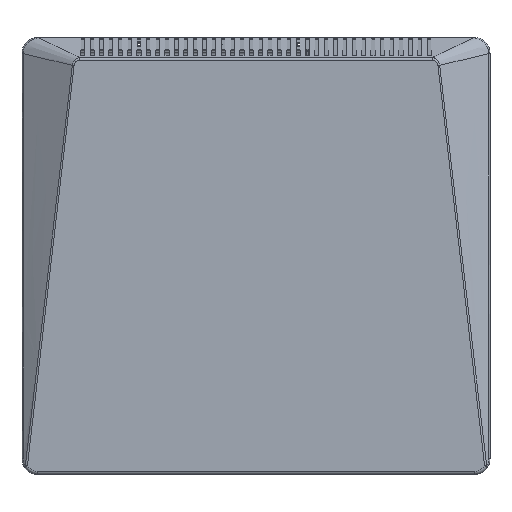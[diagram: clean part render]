
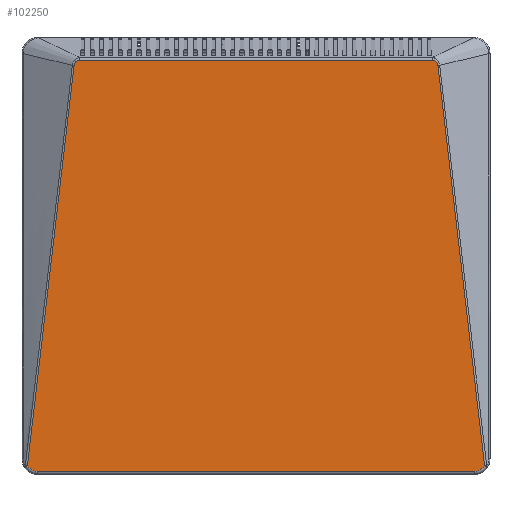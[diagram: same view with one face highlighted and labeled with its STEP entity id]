
A CAD part, top view. The second image highlights one B-rep face of the part: STEP entity #102250.
In plain terms, the highlighted planar face has unit normal (0, 0, 1).
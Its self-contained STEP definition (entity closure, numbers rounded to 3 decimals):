
#102250 = ADVANCED_FACE('',(#102251),#102399,.T.);
#102251 = FACE_BOUND('',#102252,.F.);
#102252 = EDGE_LOOP('',(#102253,#102290,#102312,#102320,#102342,#102375,
    #102384,#102392));
#102253 = ORIENTED_EDGE('',*,*,#102254,.F.);
#102254 = EDGE_CURVE('',#102255,#102257,#102259,.T.);
#102255 = VERTEX_POINT('',#102256);
#102256 = CARTESIAN_POINT('',(-174.95,182.919,52.));
#102257 = VERTEX_POINT('',#102258);
#102258 = CARTESIAN_POINT('',(-219.778,-201.956,52.));
#102259 = B_SPLINE_CURVE_WITH_KNOTS('',3,(#102260,#102261,#102262,
    #102263,#102264,#102265,#102266,#102267,#102268,#102269,#102270,
    #102271,#102272,#102273,#102274,#102275,#102276,#102277,#102278,
    #102279,#102280,#102281,#102282,#102283,#102284,#102285,#102286,
    #102287,#102288,#102289),.UNSPECIFIED.,.F.,.F.,(4,1,1,1,1,1,1,1,1,1,
    1,1,1,1,1,1,1,1,1,1,1,1,1,1,1,1,1,4),(0.,0.037,
    0.074,0.111,0.148,0.185,
    0.222,0.259,0.296,0.333,
    0.37,0.407,0.444,0.481,
    0.519,0.556,0.593,0.63,
    0.667,0.704,0.741,0.778,
    0.815,0.852,0.889,0.926,
    0.963,1.),.UNSPECIFIED.);
#102260 = CARTESIAN_POINT('',(-174.95,182.919,52.));
#102261 = CARTESIAN_POINT('',(-176.379,170.714,52.));
#102262 = CARTESIAN_POINT('',(-179.117,147.333,52.));
#102263 = CARTESIAN_POINT('',(-182.862,115.344,52.));
#102264 = CARTESIAN_POINT('',(-186.244,86.445,52.));
#102265 = CARTESIAN_POINT('',(-189.336,60.029,52.));
#102266 = CARTESIAN_POINT('',(-192.178,35.734,52.));
#102267 = CARTESIAN_POINT('',(-194.799,13.33,52.));
#102268 = CARTESIAN_POINT('',(-197.203,-7.22,52.));
#102269 = CARTESIAN_POINT('',(-199.397,-25.984,52.));
#102270 = CARTESIAN_POINT('',(-201.399,-43.117,52.));
#102271 = CARTESIAN_POINT('',(-203.227,-58.759,52.));
#102272 = CARTESIAN_POINT('',(-204.895,-73.037,52.));
#102273 = CARTESIAN_POINT('',(-206.418,-86.089,52.));
#102274 = CARTESIAN_POINT('',(-207.814,-98.058,52.));
#102275 = CARTESIAN_POINT('',(-209.099,-109.085,52.));
#102276 = CARTESIAN_POINT('',(-210.291,-119.316,52.));
#102277 = CARTESIAN_POINT('',(-211.403,-128.877,52.));
#102278 = CARTESIAN_POINT('',(-212.44,-137.801,52.));
#102279 = CARTESIAN_POINT('',(-213.395,-146.034,52.));
#102280 = CARTESIAN_POINT('',(-214.265,-153.546,52.));
#102281 = CARTESIAN_POINT('',(-215.059,-160.412,52.));
#102282 = CARTESIAN_POINT('',(-215.796,-166.81,52.));
#102283 = CARTESIAN_POINT('',(-216.502,-172.952,52.));
#102284 = CARTESIAN_POINT('',(-217.199,-179.038,52.));
#102285 = CARTESIAN_POINT('',(-217.904,-185.22,52.));
#102286 = CARTESIAN_POINT('',(-218.598,-191.356,52.));
#102287 = CARTESIAN_POINT('',(-219.235,-197.037,52.));
#102288 = CARTESIAN_POINT('',(-219.605,-200.383,52.));
#102289 = CARTESIAN_POINT('',(-219.778,-201.956,52.));
#102290 = ORIENTED_EDGE('',*,*,#102291,.F.);
#102291 = EDGE_CURVE('',#102292,#102255,#102294,.T.);
#102292 = VERTEX_POINT('',#102293);
#102293 = CARTESIAN_POINT('',(-169.742,188.259,52.));
#102294 = B_SPLINE_CURVE_WITH_KNOTS('',3,(#102295,#102296,#102297,
    #102298,#102299,#102300,#102301,#102302,#102303,#102304,#102305,
    #102306,#102307,#102308,#102309,#102310,#102311),.UNSPECIFIED.,.F.,
  .F.,(4,1,1,1,1,1,1,1,1,1,1,1,1,1,4),(0.,0.071,
    0.143,0.214,0.286,0.357,
    0.429,0.5,0.571,0.643,0.714,
    0.786,0.857,0.929,1.),.UNSPECIFIED.);
#102295 = CARTESIAN_POINT('',(-169.742,188.259,52.));
#102296 = CARTESIAN_POINT('',(-169.832,188.259,52.));
#102297 = CARTESIAN_POINT('',(-170.021,188.251,52.));
#102298 = CARTESIAN_POINT('',(-170.336,188.21,52.));
#102299 = CARTESIAN_POINT('',(-170.695,188.132,52.));
#102300 = CARTESIAN_POINT('',(-171.083,188.012,52.));
#102301 = CARTESIAN_POINT('',(-171.502,187.842,52.));
#102302 = CARTESIAN_POINT('',(-171.944,187.613,52.));
#102303 = CARTESIAN_POINT('',(-172.407,187.316,52.));
#102304 = CARTESIAN_POINT('',(-172.895,186.928,52.));
#102305 = CARTESIAN_POINT('',(-173.389,186.437,52.));
#102306 = CARTESIAN_POINT('',(-173.853,185.853,52.));
#102307 = CARTESIAN_POINT('',(-174.249,185.206,52.));
#102308 = CARTESIAN_POINT('',(-174.56,184.531,52.));
#102309 = CARTESIAN_POINT('',(-174.803,183.795,52.));
#102310 = CARTESIAN_POINT('',(-174.915,183.223,52.));
#102311 = CARTESIAN_POINT('',(-174.95,182.919,52.));
#102312 = ORIENTED_EDGE('',*,*,#102313,.F.);
#102313 = EDGE_CURVE('',#102314,#102292,#102316,.T.);
#102314 = VERTEX_POINT('',#102315);
#102315 = CARTESIAN_POINT('',(169.742,188.259,52.));
#102316 = LINE('',#102317,#102318);
#102317 = CARTESIAN_POINT('',(169.742,188.259,52.));
#102318 = VECTOR('',#102319,1.);
#102319 = DIRECTION('',(-1.,0.,0.));
#102320 = ORIENTED_EDGE('',*,*,#102321,.F.);
#102321 = EDGE_CURVE('',#102322,#102314,#102324,.T.);
#102322 = VERTEX_POINT('',#102323);
#102323 = CARTESIAN_POINT('',(174.95,182.919,52.));
#102324 = B_SPLINE_CURVE_WITH_KNOTS('',3,(#102325,#102326,#102327,
    #102328,#102329,#102330,#102331,#102332,#102333,#102334,#102335,
    #102336,#102337,#102338,#102339,#102340,#102341),.UNSPECIFIED.,.F.,
  .F.,(4,1,1,1,1,1,1,1,1,1,1,1,1,1,4),(0.,0.071,
    0.143,0.214,0.286,0.357,
    0.429,0.5,0.571,0.643,0.714,
    0.786,0.857,0.929,1.),.UNSPECIFIED.);
#102325 = CARTESIAN_POINT('',(174.95,182.919,52.));
#102326 = CARTESIAN_POINT('',(174.923,183.15,52.));
#102327 = CARTESIAN_POINT('',(174.843,183.62,52.));
#102328 = CARTESIAN_POINT('',(174.63,184.35,52.));
#102329 = CARTESIAN_POINT('',(174.318,185.075,52.));
#102330 = CARTESIAN_POINT('',(173.925,185.748,52.));
#102331 = CARTESIAN_POINT('',(173.473,186.341,52.));
#102332 = CARTESIAN_POINT('',(172.996,186.835,52.));
#102333 = CARTESIAN_POINT('',(172.522,187.231,52.));
#102334 = CARTESIAN_POINT('',(172.062,187.543,52.));
#102335 = CARTESIAN_POINT('',(171.625,187.783,52.));
#102336 = CARTESIAN_POINT('',(171.213,187.964,52.));
#102337 = CARTESIAN_POINT('',(170.829,188.094,52.));
#102338 = CARTESIAN_POINT('',(170.479,188.182,52.));
#102339 = CARTESIAN_POINT('',(170.124,188.242,52.));
#102340 = CARTESIAN_POINT('',(169.872,188.259,52.));
#102341 = CARTESIAN_POINT('',(169.742,188.259,52.));
#102342 = ORIENTED_EDGE('',*,*,#102343,.F.);
#102343 = EDGE_CURVE('',#102344,#102322,#102346,.T.);
#102344 = VERTEX_POINT('',#102345);
#102345 = CARTESIAN_POINT('',(219.778,-201.957,52.));
#102346 = B_SPLINE_CURVE_WITH_KNOTS('',3,(#102347,#102348,#102349,
    #102350,#102351,#102352,#102353,#102354,#102355,#102356,#102357,
    #102358,#102359,#102360,#102361,#102362,#102363,#102364,#102365,
    #102366,#102367,#102368,#102369,#102370,#102371,#102372,#102373,
    #102374),.UNSPECIFIED.,.F.,.F.,(4,1,1,1,1,1,1,1,1,1,1,1,1,1,1,1,1,1,
    1,1,1,1,1,1,1,4),(0.,0.04,0.08,0.12,0.16,0.2,0.24,0.28,0.32,0.36
    ,0.4,0.44,0.48,0.52,0.56,0.6,0.64,0.68,0.72,0.76,0.8,0.84,0.88,0.92,
    0.96,1.),.QUASI_UNIFORM_KNOTS.);
#102347 = CARTESIAN_POINT('',(219.778,-201.957,52.));
#102348 = CARTESIAN_POINT('',(219.637,-200.676,52.));
#102349 = CARTESIAN_POINT('',(219.333,-197.922,52.));
#102350 = CARTESIAN_POINT('',(218.811,-193.252,52.));
#102351 = CARTESIAN_POINT('',(218.21,-187.92,52.));
#102352 = CARTESIAN_POINT('',(217.543,-182.05,52.));
#102353 = CARTESIAN_POINT('',(216.836,-175.86,52.));
#102354 = CARTESIAN_POINT('',(216.079,-169.269,52.));
#102355 = CARTESIAN_POINT('',(215.238,-161.965,52.));
#102356 = CARTESIAN_POINT('',(214.295,-153.806,52.));
#102357 = CARTESIAN_POINT('',(213.26,-144.871,52.));
#102358 = CARTESIAN_POINT('',(212.141,-135.223,52.));
#102359 = CARTESIAN_POINT('',(210.925,-124.764,52.));
#102360 = CARTESIAN_POINT('',(209.59,-113.298,52.));
#102361 = CARTESIAN_POINT('',(208.113,-100.624,52.));
#102362 = CARTESIAN_POINT('',(206.472,-86.55,52.));
#102363 = CARTESIAN_POINT('',(204.652,-70.961,52.));
#102364 = CARTESIAN_POINT('',(202.656,-53.87,52.));
#102365 = CARTESIAN_POINT('',(200.485,-35.292,52.));
#102366 = CARTESIAN_POINT('',(198.136,-15.197,52.));
#102367 = CARTESIAN_POINT('',(195.609,6.409,52.));
#102368 = CARTESIAN_POINT('',(192.883,29.711,52.));
#102369 = CARTESIAN_POINT('',(189.932,54.936,52.));
#102370 = CARTESIAN_POINT('',(186.673,82.78,52.));
#102371 = CARTESIAN_POINT('',(183.088,113.405,52.));
#102372 = CARTESIAN_POINT('',(179.192,146.687,52.));
#102373 = CARTESIAN_POINT('',(176.398,170.556,52.));
#102374 = CARTESIAN_POINT('',(174.95,182.919,52.));
#102375 = ORIENTED_EDGE('',*,*,#102376,.F.);
#102376 = EDGE_CURVE('',#102377,#102344,#102379,.T.);
#102377 = VERTEX_POINT('',#102378);
#102378 = CARTESIAN_POINT('',(210.,-207.,52.));
#102379 = CIRCLE('',#102380,12.);
#102380 = AXIS2_PLACEMENT_3D('',#102381,#102382,#102383);
#102381 = CARTESIAN_POINT('',(210.,-195.,52.));
#102382 = DIRECTION('',(0.,0.,1.));
#102383 = DIRECTION('',(0.,-1.,0.));
#102384 = ORIENTED_EDGE('',*,*,#102385,.F.);
#102385 = EDGE_CURVE('',#102386,#102377,#102388,.T.);
#102386 = VERTEX_POINT('',#102387);
#102387 = CARTESIAN_POINT('',(-210.,-207.,52.));
#102388 = LINE('',#102389,#102390);
#102389 = CARTESIAN_POINT('',(-210.,-207.,52.));
#102390 = VECTOR('',#102391,1.);
#102391 = DIRECTION('',(1.,0.,0.));
#102392 = ORIENTED_EDGE('',*,*,#102393,.F.);
#102393 = EDGE_CURVE('',#102257,#102386,#102394,.T.);
#102394 = CIRCLE('',#102395,12.);
#102395 = AXIS2_PLACEMENT_3D('',#102396,#102397,#102398);
#102396 = CARTESIAN_POINT('',(-210.,-195.,52.));
#102397 = DIRECTION('',(0.,0.,1.));
#102398 = DIRECTION('',(-0.815,-0.58,0.));
#102399 = PLANE('',#102400);
#102400 = AXIS2_PLACEMENT_3D('',#102401,#102402,#102403);
#102401 = CARTESIAN_POINT('',(0.,0.,52.));
#102402 = DIRECTION('',(0.,0.,1.));
#102403 = DIRECTION('',(1.,0.,-0.));
